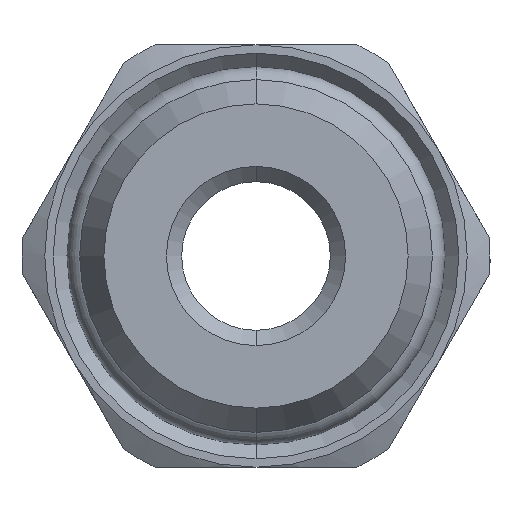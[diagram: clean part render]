
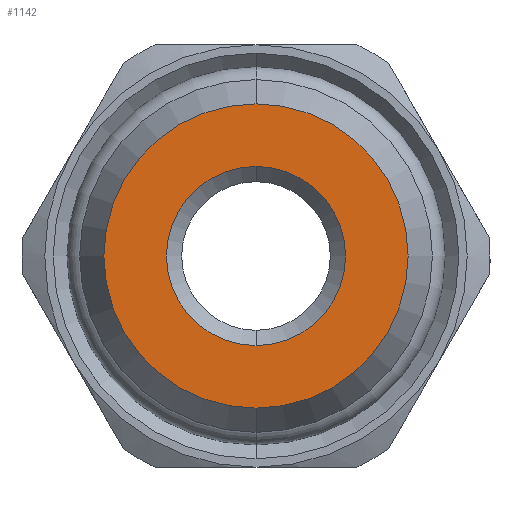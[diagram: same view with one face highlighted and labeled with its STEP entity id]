
A CAD part, front view. The second image highlights one B-rep face of the part: STEP entity #1142.
In plain terms, the highlighted planar face has unit normal (0, -1, 0).
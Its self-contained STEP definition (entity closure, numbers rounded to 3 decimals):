
#51 = EDGE_CURVE ( 'NONE', #1401, #1189, #1636, .T. ) ;
#117 = EDGE_LOOP ( 'NONE', ( #127, #898 ) ) ;
#127 = ORIENTED_EDGE ( 'NONE', *, *, #51, .T. ) ;
#169 = DIRECTION ( 'NONE',  ( 0., 0., -1. ) ) ;
#197 = DIRECTION ( 'NONE',  ( 0., 1., 0. ) ) ;
#200 = CIRCLE ( 'NONE', #2216, 9. ) ;
#224 = CARTESIAN_POINT ( 'NONE',  ( 0., -9.6, 0. ) ) ;
#274 = ORIENTED_EDGE ( 'NONE', *, *, #1792, .T. ) ;
#335 = EDGE_LOOP ( 'NONE', ( #274, #470 ) ) ;
#351 = DIRECTION ( 'NONE',  ( 0., -1., 0. ) ) ;
#401 = EDGE_CURVE ( 'NONE', #751, #844, #200, .T. ) ;
#412 = CIRCLE ( 'NONE', #1381, 5.3 ) ;
#470 = ORIENTED_EDGE ( 'NONE', *, *, #401, .T. ) ;
#650 = CARTESIAN_POINT ( 'NONE',  ( 0., -9.6, 0. ) ) ;
#654 = FACE_OUTER_BOUND ( 'NONE', #335, .T. ) ;
#711 = DIRECTION ( 'NONE',  ( 0., 0., -1. ) ) ;
#751 = VERTEX_POINT ( 'NONE', #2050 ) ;
#826 = DIRECTION ( 'NONE',  ( 0., 0., -1. ) ) ;
#844 = VERTEX_POINT ( 'NONE', #2172 ) ;
#861 = CIRCLE ( 'NONE', #1614, 9. ) ;
#898 = ORIENTED_EDGE ( 'NONE', *, *, #1734, .T. ) ;
#982 = CARTESIAN_POINT ( 'NONE',  ( 0., -9.6, 0. ) ) ;
#983 = PLANE ( 'NONE',  #2189 ) ;
#1061 = FACE_BOUND ( 'NONE', #117, .T. ) ;
#1142 = ADVANCED_FACE ( 'NONE', ( #1061, #654 ), #983, .T. ) ;
#1151 = DIRECTION ( 'NONE',  ( 0., 0., -1. ) ) ;
#1189 = VERTEX_POINT ( 'NONE', #1766 ) ;
#1267 = DIRECTION ( 'NONE',  ( 0., -1., 0. ) ) ;
#1381 = AXIS2_PLACEMENT_3D ( 'NONE', #982, #2225, #1151 ) ;
#1389 = CARTESIAN_POINT ( 'NONE',  ( 0., -9.6, 0. ) ) ;
#1401 = VERTEX_POINT ( 'NONE', #1450 ) ;
#1450 = CARTESIAN_POINT ( 'NONE',  ( 0., -9.6, -5.3 ) ) ;
#1563 = DIRECTION ( 'NONE',  ( 0., 0., -1. ) ) ;
#1614 = AXIS2_PLACEMENT_3D ( 'NONE', #650, #1882, #826 ) ;
#1636 = CIRCLE ( 'NONE', #2174, 5.3 ) ;
#1734 = EDGE_CURVE ( 'NONE', #1189, #1401, #412, .T. ) ;
#1766 = CARTESIAN_POINT ( 'NONE',  ( 0., -9.6, 5.3 ) ) ;
#1792 = EDGE_CURVE ( 'NONE', #844, #751, #861, .T. ) ;
#1882 = DIRECTION ( 'NONE',  ( 0., -1., 0. ) ) ;
#1966 = CARTESIAN_POINT ( 'NONE',  ( 0., -9.6, 0. ) ) ;
#2050 = CARTESIAN_POINT ( 'NONE',  ( 0., -9.6, -9. ) ) ;
#2172 = CARTESIAN_POINT ( 'NONE',  ( 0., -9.6, 9. ) ) ;
#2174 = AXIS2_PLACEMENT_3D ( 'NONE', #1966, #197, #711 ) ;
#2189 = AXIS2_PLACEMENT_3D ( 'NONE', #1389, #351, #1563 ) ;
#2216 = AXIS2_PLACEMENT_3D ( 'NONE', #224, #1267, #169 ) ;
#2225 = DIRECTION ( 'NONE',  ( 0., 1., 0. ) ) ;
